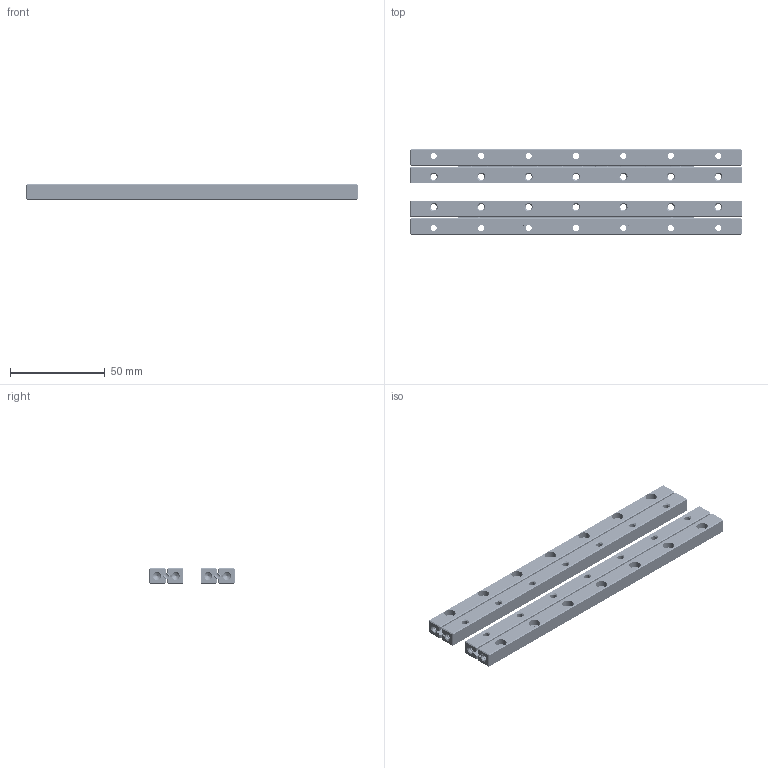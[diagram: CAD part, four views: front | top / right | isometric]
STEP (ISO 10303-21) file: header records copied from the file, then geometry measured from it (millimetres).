
FILE_DESCRIPTION(/* description */ (''),/* implementation_level */ '2;1');
FILE_NAME(/* name */ 'Set RSDE-3175x34KRE-ACC.stp',/* time_stamp */ '2018-12-19T13:17:56+01:00',/* author */ (''),/* organization */ (''),/* preprocessor_version */ 'ST-DEVELOPER v16.7',/* originating_system */ 'SIEMENS PLM Software NX 12.0',/* authorisation */ '');
FILE_SCHEMA (('AUTOMOTIVE_DESIGN { 1 0 10303 214 3 1 1 1 }'));
Products named in the file (1): rhn11EC67B6z22c
Bounding box: 175 x 45 x 8 mm (x, y, z)
Volume: 42528.1 mm3; surface area: 36503.8 mm2
Topology: 92 solids, 92 shells, 4604 faces, 13026 edges, 8562 vertices
Faces by surface type: plane 2236, cylinder 1540, torus 696, extrusion 72, cone 60
Full cylindrical faces by diameter (mm): 0.45 x304, 1 x8, 2 x68, 2.6 x8, 3 x68, 3.2 x36, 6 x28
Entity records: 151964 total; most frequent: CARTESIAN_POINT 32101, DIRECTION 25082, ORIENTED_EDGE 24048, EDGE_CURVE 12024, AXIS2_PLACEMENT_3D 9085, VERTEX_POINT 8280, VECTOR 6912, LINE 6840
